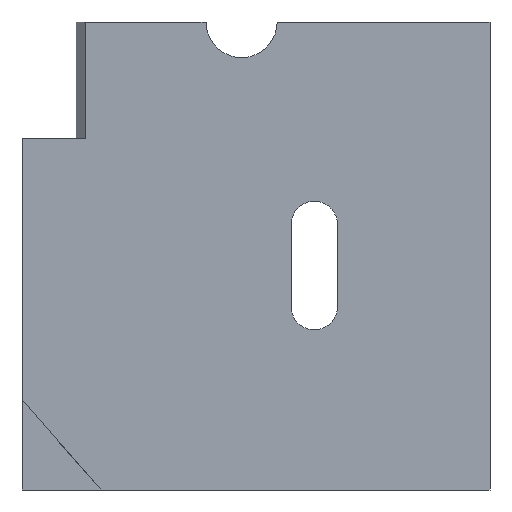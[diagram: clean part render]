
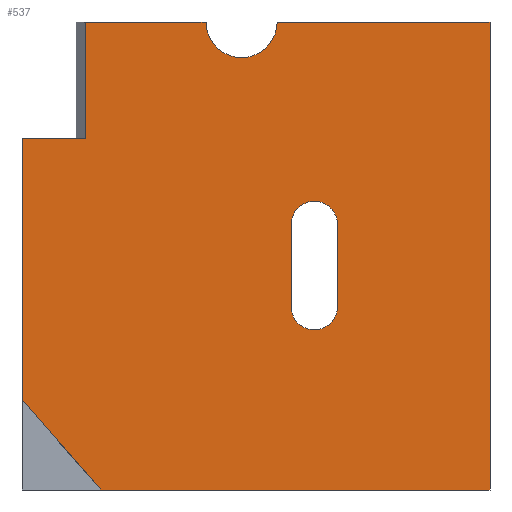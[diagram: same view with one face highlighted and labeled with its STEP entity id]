
A CAD part, front view. The second image highlights one B-rep face of the part: STEP entity #537.
In plain terms, the highlighted planar face has unit normal (0, -1, 0).
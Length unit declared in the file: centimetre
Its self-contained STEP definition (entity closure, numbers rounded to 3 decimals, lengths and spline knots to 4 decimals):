
#5 = EDGE_CURVE ( 'NONE', #807, #209, #1176, .T. ) ;
#7 = CARTESIAN_POINT ( 'NONE',  ( 393.2074, 0., 1000. ) ) ;
#26 = EDGE_CURVE ( 'NONE', #1004, #993, #336, .T. ) ;
#35 = ORIENTED_EDGE ( 'NONE', *, *, #1218, .T. ) ;
#49 = VERTEX_POINT ( 'NONE', #944 ) ;
#52 = EDGE_CURVE ( 'NONE', #49, #300, #554, .T. ) ;
#62 = CARTESIAN_POINT ( 'NONE',  ( 545.2284, 0., 1000. ) ) ;
#65 = DIRECTION ( 'NONE',  ( 1., 0., 0. ) ) ;
#82 = DIRECTION ( 'NONE',  ( 1., 0., 0. ) ) ;
#84 = VERTEX_POINT ( 'NONE', #645 ) ;
#87 = VECTOR ( 'NONE', #1113, 100. ) ;
#96 = DIRECTION ( 'NONE',  ( 0., -1., 0. ) ) ;
#112 = LINE ( 'NONE', #497, #754 ) ;
#119 = EDGE_LOOP ( 'NONE', ( #770, #824, #913, #1233, #466 ) ) ;
#139 = ORIENTED_EDGE ( 'NONE', *, *, #5, .F. ) ;
#151 = DIRECTION ( 'NONE',  ( 0., 0., 1. ) ) ;
#158 = LINE ( 'NONE', #166, #696 ) ;
#166 = CARTESIAN_POINT ( 'NONE',  ( 0., 0., 1000. ) ) ;
#176 = VERTEX_POINT ( 'NONE', #837 ) ;
#209 = VERTEX_POINT ( 'NONE', #774 ) ;
#221 = AXIS2_PLACEMENT_3D ( 'NONE', #586, #664, #1068 ) ;
#233 = DIRECTION ( 'NONE',  ( 0., 0., 1. ) ) ;
#254 = CARTESIAN_POINT ( 'NONE',  ( 0., 0., 1000. ) ) ;
#255 = CARTESIAN_POINT ( 'NONE',  ( 574.9116, 0., 391.7942 ) ) ;
#268 = DIRECTION ( 'NONE',  ( 0., 0., 1. ) ) ;
#300 = VERTEX_POINT ( 'NONE', #1057 ) ;
#309 = EDGE_CURVE ( 'NONE', #993, #84, #994, .T. ) ;
#322 = DIRECTION ( 'NONE',  ( 0., 1., 0. ) ) ;
#323 = DIRECTION ( 'NONE',  ( 0., 0., 1. ) ) ;
#327 = EDGE_CURVE ( 'NONE', #49, #807, #1156, .T. ) ;
#332 = CARTESIAN_POINT ( 'NONE',  ( 1000., 0., 0. ) ) ;
#336 = LINE ( 'NONE', #640, #853 ) ;
#362 = CARTESIAN_POINT ( 'NONE',  ( 574.9116, 0., 567.3105 ) ) ;
#370 = DIRECTION ( 'NONE',  ( 1., 0., 0. ) ) ;
#388 = AXIS2_PLACEMENT_3D ( 'NONE', #1196, #322, #233 ) ;
#394 = CARTESIAN_POINT ( 'NONE',  ( 674.2214, 0., 567.3105 ) ) ;
#414 = DIRECTION ( 'NONE',  ( 1., 0., 0. ) ) ;
#428 = LINE ( 'NONE', #1225, #766 ) ;
#466 = ORIENTED_EDGE ( 'NONE', *, *, #1128, .F. ) ;
#474 = DIRECTION ( 'NONE',  ( 0., 0., 1. ) ) ;
#490 = DIRECTION ( 'NONE',  ( 0., -1., 0. ) ) ;
#497 = CARTESIAN_POINT ( 'NONE',  ( 0., 0., 1000. ) ) ;
#528 = PLANE ( 'NONE',  #1224 ) ;
#537 = ADVANCED_FACE ( 'NONE', ( #1121, #635 ), #528, .F. ) ;
#545 = LINE ( 'NONE', #1022, #1238 ) ;
#554 = LINE ( 'NONE', #1210, #87 ) ;
#557 = EDGE_CURVE ( 'NONE', #176, #300, #428, .T. ) ;
#563 = VERTEX_POINT ( 'NONE', #332 ) ;
#581 = VECTOR ( 'NONE', #1132, 100. ) ;
#586 = CARTESIAN_POINT ( 'NONE',  ( 624.5665, 0., 567.3105 ) ) ;
#596 = CARTESIAN_POINT ( 'NONE',  ( 624.5665, 0., 391.7942 ) ) ;
#607 = CARTESIAN_POINT ( 'NONE',  ( 135.6831, 0., 751.6616 ) ) ;
#622 = AXIS2_PLACEMENT_3D ( 'NONE', #1169, #96, #474 ) ;
#625 = VERTEX_POINT ( 'NONE', #646 ) ;
#629 = DIRECTION ( 'NONE',  ( 0., 1., 0. ) ) ;
#632 = ORIENTED_EDGE ( 'NONE', *, *, #327, .F. ) ;
#634 = DIRECTION ( 'NONE',  ( 0., 0., -1. ) ) ;
#635 = FACE_OUTER_BOUND ( 'NONE', #1147, .T. ) ;
#640 = CARTESIAN_POINT ( 'NONE',  ( 574.9116, 0., 391.7942 ) ) ;
#645 = CARTESIAN_POINT ( 'NONE',  ( 624.5665, 0., 342.1393 ) ) ;
#646 = CARTESIAN_POINT ( 'NONE',  ( 674.2214, 0., 391.7942 ) ) ;
#657 = CARTESIAN_POINT ( 'NONE',  ( 1000., 0., 1000. ) ) ;
#664 = DIRECTION ( 'NONE',  ( 0., -1., 0. ) ) ;
#673 = EDGE_CURVE ( 'NONE', #1092, #563, #1144, .T. ) ;
#696 = VECTOR ( 'NONE', #82, 100. ) ;
#716 = CARTESIAN_POINT ( 'NONE',  ( 135.6831, 0., 751.6616 ) ) ;
#720 = ORIENTED_EDGE ( 'NONE', *, *, #1099, .F. ) ;
#733 = VECTOR ( 'NONE', #323, 100. ) ;
#754 = VECTOR ( 'NONE', #414, 100. ) ;
#766 = VECTOR ( 'NONE', #1198, 100. ) ;
#770 = ORIENTED_EDGE ( 'NONE', *, *, #957, .F. ) ;
#774 = CARTESIAN_POINT ( 'NONE',  ( 135.6831, 0., 1000. ) ) ;
#797 = CIRCLE ( 'NONE', #221, 49.6549 ) ;
#807 = VERTEX_POINT ( 'NONE', #607 ) ;
#824 = ORIENTED_EDGE ( 'NONE', *, *, #1040, .F. ) ;
#837 = CARTESIAN_POINT ( 'NONE',  ( 168.6364, 0., 0. ) ) ;
#853 = VECTOR ( 'NONE', #634, 100. ) ;
#856 = AXIS2_PLACEMENT_3D ( 'NONE', #596, #490, #268 ) ;
#857 = ORIENTED_EDGE ( 'NONE', *, *, #52, .T. ) ;
#869 = EDGE_CURVE ( 'NONE', #176, #563, #545, .T. ) ;
#870 = ORIENTED_EDGE ( 'NONE', *, *, #873, .F. ) ;
#873 = EDGE_CURVE ( 'NONE', #1186, #1092, #158, .T. ) ;
#913 = ORIENTED_EDGE ( 'NONE', *, *, #309, .F. ) ;
#926 = ORIENTED_EDGE ( 'NONE', *, *, #869, .T. ) ;
#940 = CIRCLE ( 'NONE', #388, 76.0105 ) ;
#944 = CARTESIAN_POINT ( 'NONE',  ( 0., 0., 751.6616 ) ) ;
#957 = EDGE_CURVE ( 'NONE', #625, #1154, #1027, .T. ) ;
#966 = CARTESIAN_POINT ( 'NONE',  ( 135.6831, 0., 751.6616 ) ) ;
#982 = ORIENTED_EDGE ( 'NONE', *, *, #673, .F. ) ;
#988 = VECTOR ( 'NONE', #370, 100. ) ;
#993 = VERTEX_POINT ( 'NONE', #255 ) ;
#994 = CIRCLE ( 'NONE', #622, 49.6549 ) ;
#998 = ORIENTED_EDGE ( 'NONE', *, *, #557, .F. ) ;
#1004 = VERTEX_POINT ( 'NONE', #362 ) ;
#1022 = CARTESIAN_POINT ( 'NONE',  ( 0., 0., 0. ) ) ;
#1027 = LINE ( 'NONE', #1116, #581 ) ;
#1040 = EDGE_CURVE ( 'NONE', #84, #625, #1193, .T. ) ;
#1052 = CARTESIAN_POINT ( 'NONE',  ( 1000., 0., 1000. ) ) ;
#1057 = CARTESIAN_POINT ( 'NONE',  ( 0., 0., 193.2506 ) ) ;
#1067 = DIRECTION ( 'NONE',  ( 0., 0., -1. ) ) ;
#1068 = DIRECTION ( 'NONE',  ( 0., 0., 1. ) ) ;
#1092 = VERTEX_POINT ( 'NONE', #1052 ) ;
#1099 = EDGE_CURVE ( 'NONE', #209, #1108, #112, .T. ) ;
#1108 = VERTEX_POINT ( 'NONE', #7 ) ;
#1113 = DIRECTION ( 'NONE',  ( 0., 0., -1. ) ) ;
#1116 = CARTESIAN_POINT ( 'NONE',  ( 674.2214, 0., 567.3105 ) ) ;
#1121 = FACE_BOUND ( 'NONE', #119, .T. ) ;
#1128 = EDGE_CURVE ( 'NONE', #1154, #1004, #797, .T. ) ;
#1132 = DIRECTION ( 'NONE',  ( 0., 0., 1. ) ) ;
#1144 = LINE ( 'NONE', #657, #1215 ) ;
#1147 = EDGE_LOOP ( 'NONE', ( #720, #139, #632, #857, #998, #926, #982, #870, #35 ) ) ;
#1154 = VERTEX_POINT ( 'NONE', #394 ) ;
#1156 = LINE ( 'NONE', #966, #988 ) ;
#1169 = CARTESIAN_POINT ( 'NONE',  ( 624.5665, 0., 391.7942 ) ) ;
#1176 = LINE ( 'NONE', #716, #733 ) ;
#1186 = VERTEX_POINT ( 'NONE', #62 ) ;
#1193 = CIRCLE ( 'NONE', #856, 49.6549 ) ;
#1196 = CARTESIAN_POINT ( 'NONE',  ( 469.2179, 0., 1000. ) ) ;
#1198 = DIRECTION ( 'NONE',  ( -0.657, 0., 0.753 ) ) ;
#1210 = CARTESIAN_POINT ( 'NONE',  ( 0., 0., 1000. ) ) ;
#1215 = VECTOR ( 'NONE', #1067, 100. ) ;
#1218 = EDGE_CURVE ( 'NONE', #1186, #1108, #940, .T. ) ;
#1224 = AXIS2_PLACEMENT_3D ( 'NONE', #254, #629, #151 ) ;
#1225 = CARTESIAN_POINT ( 'NONE',  ( 0., 0., 193.2506 ) ) ;
#1233 = ORIENTED_EDGE ( 'NONE', *, *, #26, .F. ) ;
#1238 = VECTOR ( 'NONE', #65, 100. ) ;
